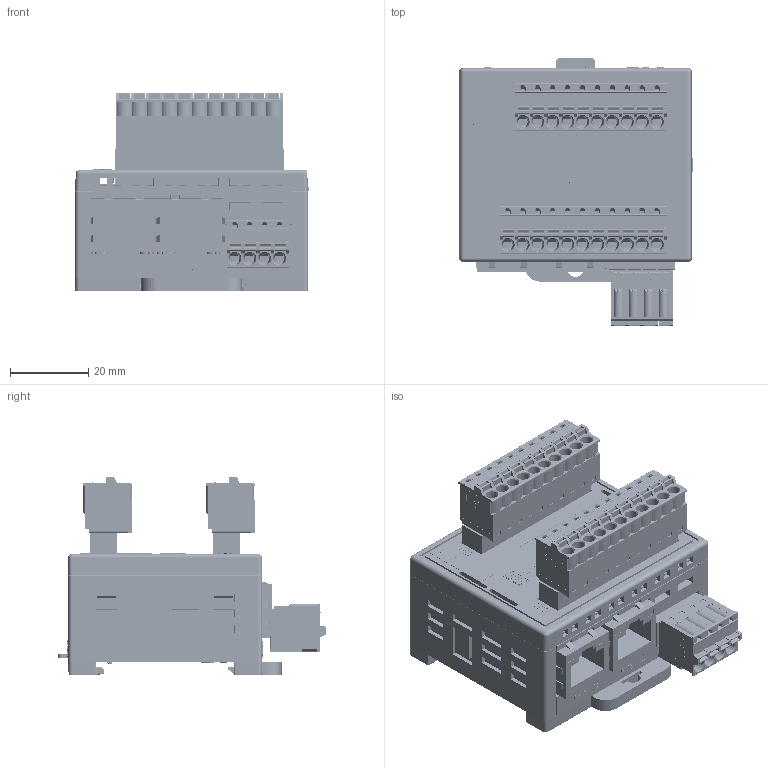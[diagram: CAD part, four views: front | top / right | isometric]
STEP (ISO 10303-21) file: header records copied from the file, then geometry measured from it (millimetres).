
FILE_DESCRIPTION((''),'2;1');
FILE_NAME('ECCBP0FW','2026-05-11T14:37:32',('gijyu181'),(''),'CREO PARAMETRIC BY PTC INC, 2018050','CREO PARAMETRIC BY PTC INC, 2018050','');
FILE_SCHEMA(('CONFIG_CONTROL_DESIGN','SHAPE_APPEARANCE_LAYERS_GROUPS'));
Products named in the file (1): ECCBP0FW
Bounding box: 59.75 x 68.55 x 50.7 mm (x, y, z)
Volume: 71057.9 mm3; surface area: 53373.3 mm2
Topology: 1 solids, 53 shells, 10015 faces, 28030 edges, 18434 vertices
Faces by surface type: plane 7169, cylinder 1604, extrusion 774, cone 274, sphere 94, torus 76, bspline 24
Entity records: 436056 total; most frequent: CARTESIAN_POINT 81223, ORIENTED_EDGE 54750, DIRECTION 47453, EDGE_CURVE 28016, VECTOR 22609, PRESENTATION_STYLE_ASSIGNMENT 22130, LINE 21835, STYLED_ITEM 18904
